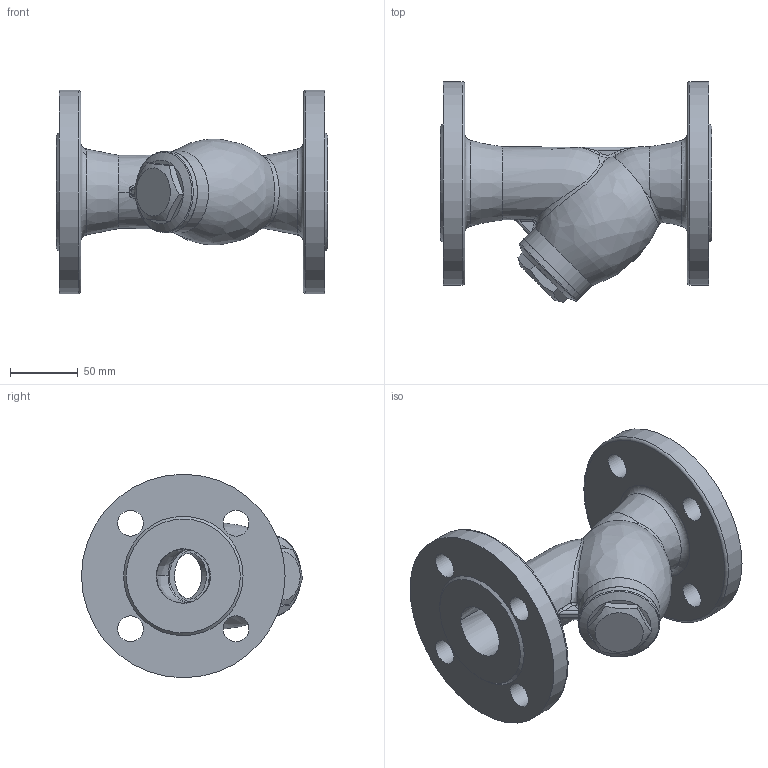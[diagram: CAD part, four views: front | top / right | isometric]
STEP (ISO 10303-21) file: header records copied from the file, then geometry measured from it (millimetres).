
FILE_DESCRIPTION(/* description */ ('STEP AP203'),/* implementation_level */ '2;1');
FILE_NAME(/* name */ '',/* time_stamp */ '2024-12-10T11:46:21+07:00',/* author */ ('Eva'),/* organization */ (''),/* preprocessor_version */ 'ST-DEVELOPER v20',/* originating_system */ 'Autodesk Inventor 2025',/* authorisation */ '');
FILE_SCHEMA (('AUTOMOTIVE_DESIGN { 1 0 10303 214 3 1 1 }'));
Length unit declared in the file: metre
Products named in the file (4): 德标过滤器40装配体1; 德标过滤器40装配体1(2); 40阀体SLDPRT; 40阀盖
Assembly tree (3 placements, depth 3):
  德标过滤器40装配体1
    德标过滤器40装配体1(2)
      40阀体SLDPRT
      40阀盖
Bounding box: 200 x 162.81 x 150 mm (x, y, z)
Volume: 821435 mm3; surface area: 169180.2 mm2
Topology: 2 solids, 3 shells, 122 faces, 281 edges, 177 vertices
Faces by surface type: plane 44, bspline 39, cylinder 26, cone 7, torus 6
Full cylindrical faces by diameter (mm): 19 x8, 34 x2, 37 x1, 40 x2, 42 x2, 43 x1, 60 x2, 150 x2
Entity records: 17435 total; most frequent: CARTESIAN_POINT 14735, ORIENTED_EDGE 558, DIRECTION 485, EDGE_CURVE 281, AXIS2_PLACEMENT_3D 208, VERTEX_POINT 177, EDGE_LOOP 156, FACE_OUTER_BOUND 122
